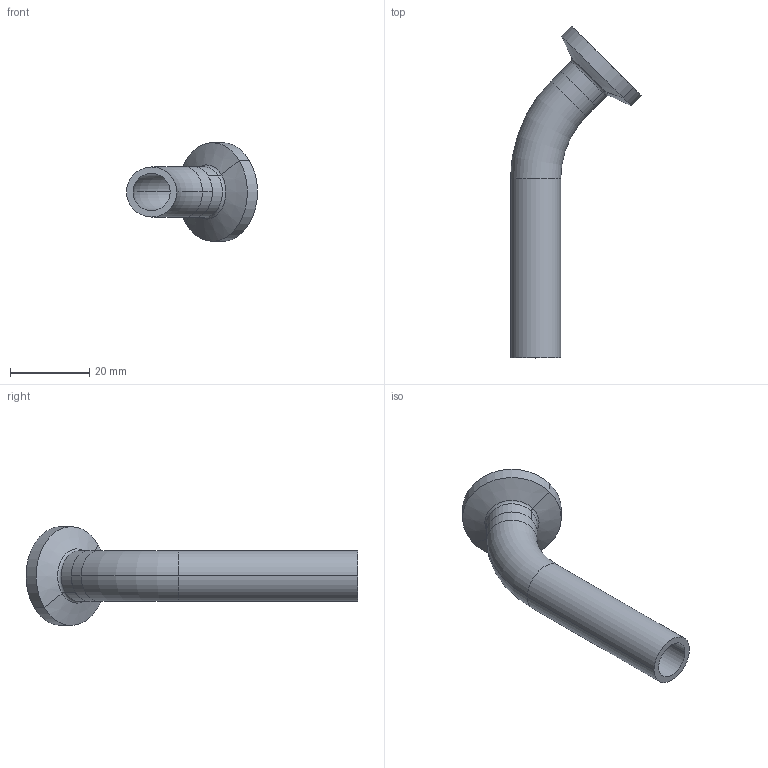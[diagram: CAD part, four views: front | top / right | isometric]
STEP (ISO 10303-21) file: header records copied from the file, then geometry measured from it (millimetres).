
FILE_DESCRIPTION (( 'STEP AP203' ), '1' );
FILE_NAME ('AEV1!245WC7-_.STEP', '2021-05-02T07:36:00', ( 'eran' ), ( '' ), 'SwSTEP 2.0', 'SolidWorks 2018', '' );
FILE_SCHEMA (( 'CONFIG_CONTROL_DESIGN' ));
Length unit declared in the file: millimetre
Products named in the file (1): AEV1!245WC7-_
Bounding box: 33.15 x 84 x 24.99 mm (x, y, z)
Volume: 5977.6 mm3; surface area: 6794 mm2
Topology: 2 solids, 2 shells, 37 faces, 74 edges, 42 vertices
Faces by surface type: cylinder 16, torus 12, plane 5, cone 4
Entity records: 1049 total; most frequent: DIRECTION 204, CARTESIAN_POINT 154, ORIENTED_EDGE 148, AXIS2_PLACEMENT_3D 92, EDGE_CURVE 74, CIRCLE 54, VERTEX_POINT 42, EDGE_LOOP 42
